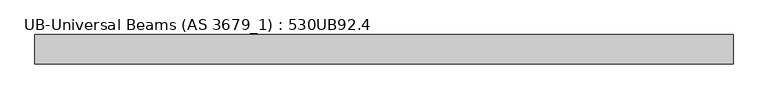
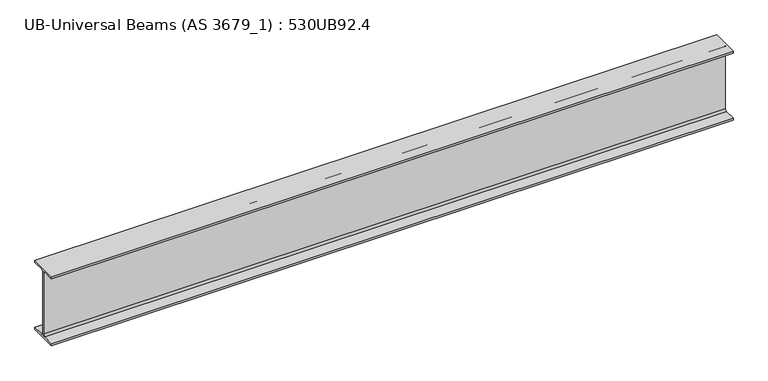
"""IFC4 building model written with IfcOpenShell, lengths in millimetres: beam geometry, UB-Universal Beams (AS 3679_1) : 530UB92.4."""

from ifc_helpers import new_model, si_unit, point, frame, frame_2d, origin, place, context, project, spatial, polyline, circle_curve, trimmed, segment, composite_curve, outline, extrude, source, transform, mapped, element, save


def ub_universal_beams_as_3679_1_530ub92_4_92d74ed5(model_context):
    return source(origin(), model_context, "Body", "SweptSolid", [
        extrude(outline(composite_curve([segment(polyline([(104.5, -250.9), (104.5, -266.5), (-104.5, -266.5), (-104.5, -250.9), (-19.1, -250.9)]), True, "CONTINUOUS"), segment(trimmed(circle_curve(frame_2d((-19.1, -236.9)), 14.0), [point((-19.1, -250.9))], [point((-5.1, -236.9))], True, "CARTESIAN"), True, "CONTINUOUS"), segment(polyline([(-5.1, -236.9), (-5.1, 236.9)]), True, "CONTINUOUS"), segment(trimmed(circle_curve(frame_2d((-19.1, 236.9)), 14.0), [point((-5.1, 236.9))], [point((-19.1, 250.9))], True, "CARTESIAN"), True, "CONTINUOUS"), segment(polyline([(-19.1, 250.9), (-104.5, 250.9), (-104.5, 266.5), (104.5, 266.5), (104.5, 250.9), (19.1, 250.9)]), True, "CONTINUOUS"), segment(trimmed(circle_curve(frame_2d((19.1, 236.9)), 14.0), [point((19.1, 250.9))], [point((5.1, 236.9))], True, "CARTESIAN"), True, "CONTINUOUS"), segment(polyline([(5.1, 236.9), (5.1, -236.9)]), True, "CONTINUOUS"), segment(trimmed(circle_curve(frame_2d((19.1, -236.9)), 14.0), [point((5.1, -236.9))], [point((19.1, -250.9))], True, "CARTESIAN"), True, "CONTINUOUS"), segment(polyline([(19.1, -250.9), (104.5, -250.9)]), True, "CONTINUOUS")], self_intersect=False)), frame((-2526.2, 0.0, 0.0), z_axis=(1.0, 0.0, 0.0), x_axis=(0.0, 1.0, 0.0)), (0.0, 0.0, 1.0), 4977.8),
    ])


if __name__ == "__main__":
    model = new_model("IFC4")
    model_context = context("Model", 3, world=origin())
    ifc_project = project(units=[si_unit("LENGTHUNIT", "METRE", prefix="MILLI")], contexts=[model_context])
    site = spatial("IfcSite", under=ifc_project)
    building = spatial("IfcBuilding", under=site)
    placement = place(None, origin())
    ub_universal_beams_as_3679_1_530ub92_4_shape = ub_universal_beams_as_3679_1_530ub92_4_92d74ed5(model_context)
    element("IfcBeam", 1, ObjectType="UB-Universal Beams (AS 3679_1) : 530UB92.4", at=placement, inside=building, context=model_context, shape_type="MappedRepresentation", body=[
        mapped(ub_universal_beams_as_3679_1_530ub92_4_shape, transform((0.0, 0.0, 0.0), x_axis=(1.0, 0.0, 0.0), y_axis=(0.0, 1.0, 0.0), z_axis=(0.0, 0.0, 1.0))),
    ])
    save(model, "model.ifc")
